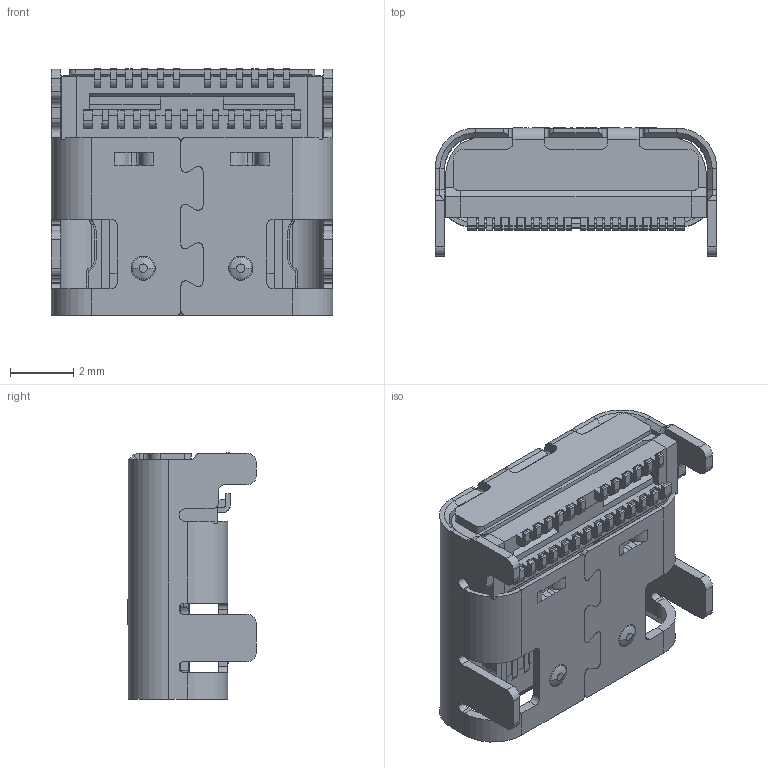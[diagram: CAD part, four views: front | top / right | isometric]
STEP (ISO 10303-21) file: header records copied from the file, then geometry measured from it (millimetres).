
FILE_DESCRIPTION((''),'2;1');
FILE_NAME('GT-USB-7013M','2023-05-15T',('WYH'),(''),'PRO/ENGINEER BY PARAMETRIC TECHNOLOGY CORPORATION, 2013040','PRO/ENGINEER BY PARAMETRIC TECHNOLOGY CORPORATION, 2013040','');
FILE_SCHEMA(('CONFIG_CONTROL_DESIGN'));
Length unit declared in the file: millimetre
Products named in the file (1): GT-USB-7013M
Bounding box: 8.94 x 4.08 x 7.83 mm (x, y, z)
Volume: 37.9 mm3; surface area: 1001.9 mm2
Topology: 14 solids, 31 shells, 3127 faces, 9086 edges, 5806 vertices
Faces by surface type: plane 2528, cylinder 530, cone 22, extrusion 21, bspline 14, torus 12
Entity records: 102673 total; most frequent: CARTESIAN_POINT 19638, ORIENTED_EDGE 18058, DIRECTION 16223, EDGE_CURVE 9086, VECTOR 7779, LINE 7758, VERTEX_POINT 5806, AXIS2_PLACEMENT_3D 4222
